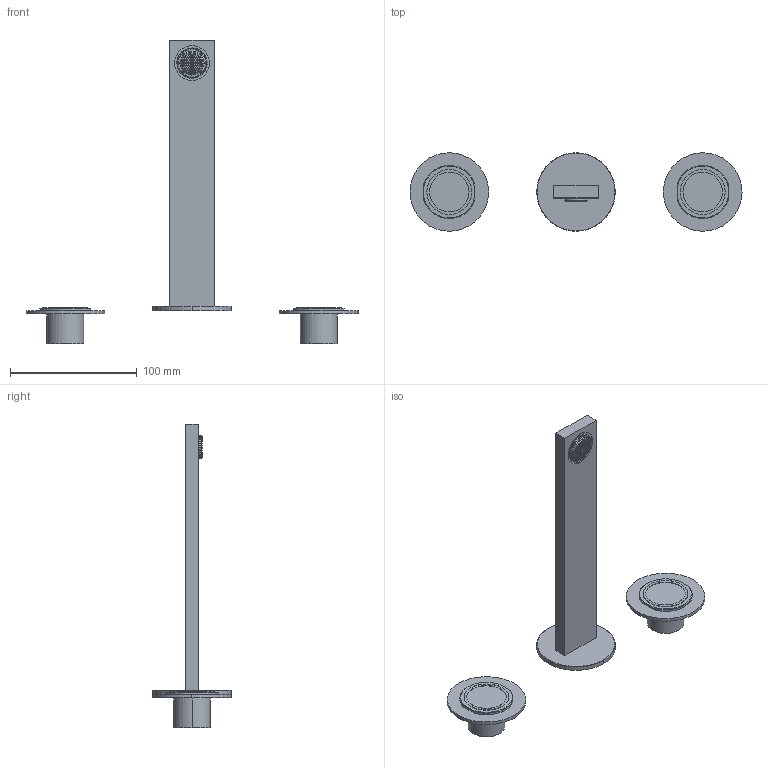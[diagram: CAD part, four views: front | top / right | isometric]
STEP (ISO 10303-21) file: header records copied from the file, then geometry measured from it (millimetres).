
FILE_DESCRIPTION((''),'2;1');
FILE_NAME('29000S813SB0000U_SW0001','2024-04-24T15:29:38',('cristian.dorz'),(''),'CREO PARAMETRIC BY PTC INC, 2022281','CREO PARAMETRIC BY PTC INC, 2022281','');
FILE_SCHEMA(('AUTOMOTIVE_DESIGN { 1 0 10303 214 1 1 1 1 }'));
Length unit declared in the file: millimetre
Products named in the file (1): 29000S813SB0000U_SW0001
Bounding box: 262 x 62 x 239.5 mm (x, y, z)
Volume: 136216.9 mm3; surface area: 44110.1 mm2
Topology: 3 solids, 4 shells, 957 faces, 2540 edges, 1691 vertices
Faces by surface type: plane 810, cylinder 121, cone 14, torus 8, bspline 4
Entity records: 39931 total; most frequent: CARTESIAN_POINT 8309, ORIENTED_EDGE 5034, DIRECTION 4597, PRESENTATION_STYLE_ASSIGNMENT 2548, STYLED_ITEM 2548, CURVE_STYLE 2545, EDGE_CURVE 2517, VECTOR 2118
